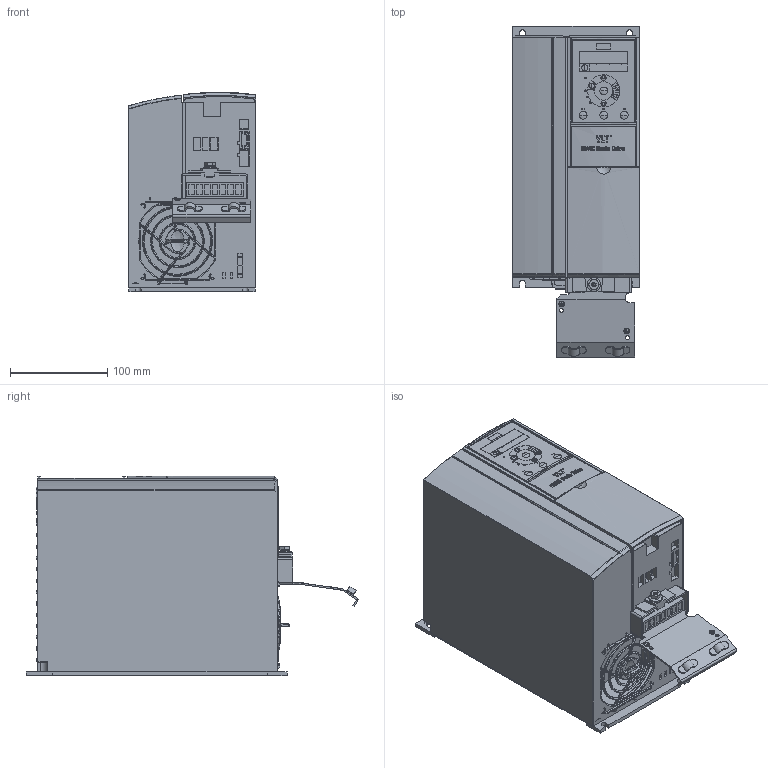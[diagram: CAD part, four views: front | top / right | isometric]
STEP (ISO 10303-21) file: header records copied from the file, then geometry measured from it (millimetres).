
FILE_DESCRIPTION((''),'2;1');
FILE_NAME('PRT0001','2011-09-09T',('cstephenkumar'),('Be-Atch INC. 1993'),'PRO/ENGINEER BY PARAMETRIC TECHNOLOGY CORPORATION, 2009360','PRO/ENGINEER BY PARAMETRIC TECHNOLOGY CORPORATION, 2009360','');
FILE_SCHEMA(('AUTOMOTIVE_DESIGN { 1 0 10303 214 1 1 1 1 }'));
Products named in the file (1): PRT0001
Bounding box: 131.04 x 340.73 x 204.88 mm (x, y, z)
Volume: 6183279.5 mm3; surface area: 295170.4 mm2
Topology: 1 solids, 4 shells, 2573 faces, 6575 edges, 3985 vertices
Faces by surface type: plane 899, cylinder 857, bspline 274, torus 263, extrusion 133, sphere 108, cone 39
Entity records: 112210 total; most frequent: CARTESIAN_POINT 29926, ORIENTED_EDGE 12950, DIRECTION 11563, EDGE_CURVE 6475, AXIS2_PLACEMENT_3D 4155, VERTEX_POINT 3985, FILL_AREA_STYLE_COLOUR 3467, FILL_AREA_STYLE 3467
